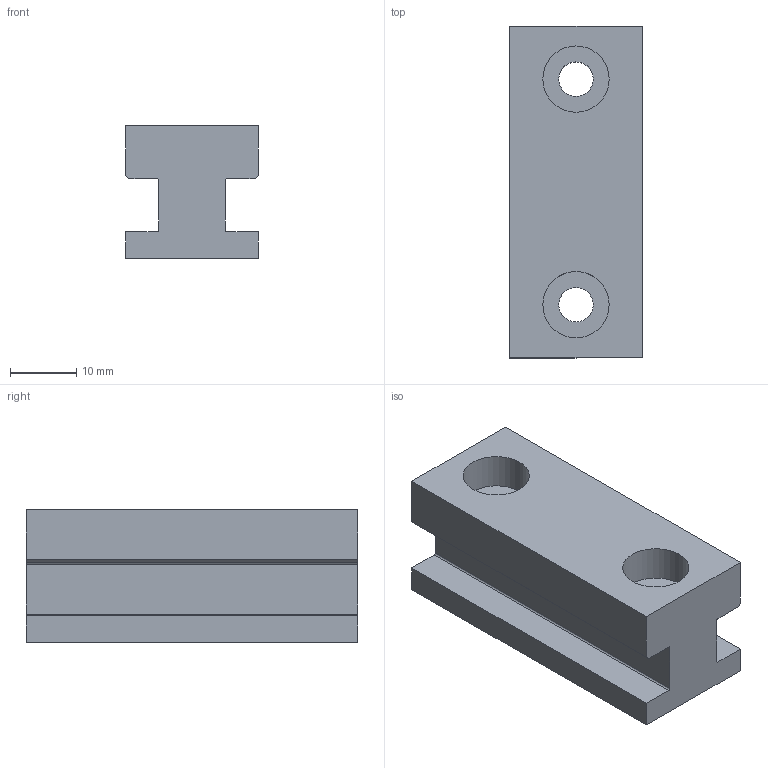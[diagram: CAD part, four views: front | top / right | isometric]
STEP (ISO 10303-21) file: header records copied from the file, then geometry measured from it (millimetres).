
FILE_DESCRIPTION (( 'STEP AP214' ), '1' );
FILE_NAME ('Schieberführung Mitte_-_20 x 20 L=50.step', '2024-01-10T12:53:26', ( '' ), ( '' ), 'SwSTEP 2.0', 'SolidWorks 2020', '' );
FILE_SCHEMA (( 'AUTOMOTIVE_DESIGN' ));
Length unit declared in the file: millimetre
Products named in the file (1): Schieberführung Mitte_-_20 x 20 L=50
Bounding box: 20 x 50 x 20 mm (x, y, z)
Volume: 14521.3 mm3; surface area: 6325.9 mm2
Topology: 1 solids, 1 shells, 140 faces, 369 edges, 246 vertices
Faces by surface type: plane 73, bspline 59, cylinder 8
Full cylindrical faces by diameter (mm): 5.2 x2, 10 x2
Entity records: 7613 total; most frequent: CARTESIAN_POINT 4507, ORIENTED_EDGE 730, DIRECTION 427, EDGE_CURVE 365, VERTEX_POINT 246, LINE 231, VECTOR 231, EDGE_LOOP 163
